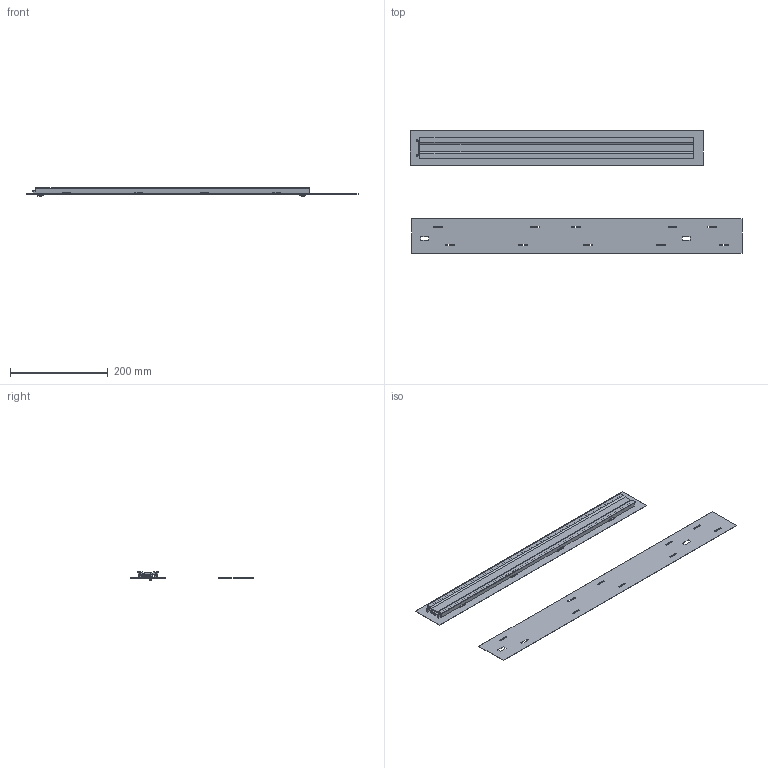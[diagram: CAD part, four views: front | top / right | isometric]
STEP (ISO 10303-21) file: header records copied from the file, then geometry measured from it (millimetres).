
FILE_DESCRIPTION(('Creo Elements/Direct Modeling STEP Export'),'2;1');
FILE_NAME('mm_97000_01_02_03_04_05_11954V0.stp','2019-06-05T 9:59:49',(''),(''),'Creo Elements/Direct Modeling STEP processor for AP214 (Solid Model)','Creo Elements/Direct Modeling 20.0 12-Nov-2016 (C) Parametric Technology GmbH','');
FILE_SCHEMA(('AUTOMOTIVE_DESIGN { 1 0 10303 214 1 1 1 1 }'));
Length unit declared in the file: millimetre
Products named in the file (22): leuchtenblech_1; STW8C2PB-E1; T1; T2; CE-Zeichen-3mm; PCB-Base_WU-M-578; T3; T4; T5; Built-In_LED_Module-4mm; VSO-Logo-3mm; 46_111_1001.1; WU-M-578-BC; abdeckung_9700x_560_Vorlage; optik_970; leuchtenblech_2; mm_97000_01_02_03_04_05_11954V0
Assembly tree (69 placements, depth 6):
  mm_97000_01_02_03_04_05_11954V0
    leuchtenblech_2
    optik_970
      abdeckung_9700x_560_Vorlage
      WU-M-578-BC
        WU-M-578-BC
          STW8C2PB-E1  x48
          46_111_1001.1  x2
          VSO-Logo-3mm
            T2
            T1
          Built-In_LED_Module-4mm
            T5
            T4
            T3
            T2
            T1
          PCB-Base_WU-M-578
          CE-Zeichen-3mm
            T2
            T1
    leuchtenblech_1
Bounding box: 678.72 x 250 x 16.75 mm (x, y, z)
Volume: 167158.7 mm3; surface area: 284093.3 mm2
Topology: 63 solids, 63 shells, 7346 faces, 19204 edges, 12716 vertices
Faces by surface type: plane 5352, cylinder 1235, bspline 741, cone 18
Entity records: 172770 total; most frequent: CARTESIAN_POINT 55053, ORIENTED_EDGE 20700, DIRECTION 15327, EDGE_CURVE 10350, VECTOR 7953, LINE 7953, VERTEX_POINT 6817, EDGE_LOOP 4217
